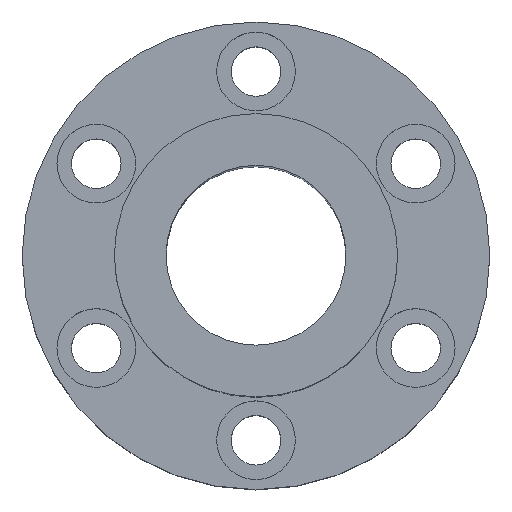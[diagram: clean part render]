
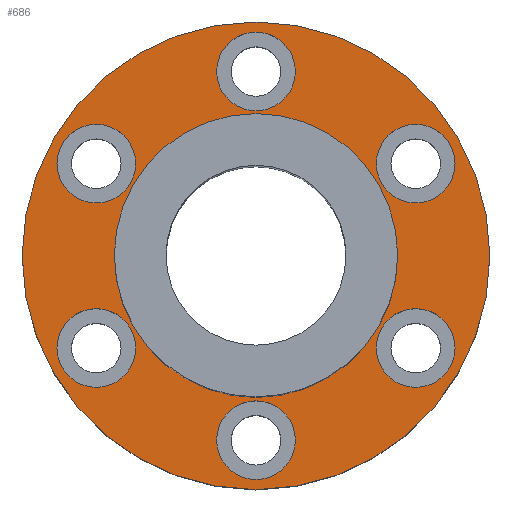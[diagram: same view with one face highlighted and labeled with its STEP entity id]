
A CAD part, top view. The second image highlights one B-rep face of the part: STEP entity #686.
In plain terms, the highlighted planar face has unit normal (0, 0, 1).
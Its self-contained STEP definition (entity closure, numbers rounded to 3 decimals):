
#1=CARTESIAN_POINT('',(0.,0.,22.5));
#2=DIRECTION('',(0.,0.,-1.));
#3=DIRECTION('',(-1.,0.,0.));
#4=AXIS2_PLACEMENT_3D('',#1,#2,#3);
#6=CARTESIAN_POINT('',(0.,0.,22.5));
#7=DIRECTION('',(0.,0.,-1.));
#8=DIRECTION('',(1.,0.,0.));
#9=AXIS2_PLACEMENT_3D('',#6,#7,#8);
#11=CARTESIAN_POINT('',(35.507,-20.5,22.5));
#12=DIRECTION('',(0.,0.,1.));
#13=DIRECTION('',(0.5,0.866,0.));
#14=AXIS2_PLACEMENT_3D('',#11,#12,#13);
#16=CARTESIAN_POINT('',(35.507,-20.5,22.5));
#17=DIRECTION('',(0.,0.,1.));
#18=DIRECTION('',(-0.5,-0.866,0.));
#19=AXIS2_PLACEMENT_3D('',#16,#17,#18);
#21=CARTESIAN_POINT('',(-35.507,-20.5,22.5));
#22=DIRECTION('',(0.,0.,1.));
#23=DIRECTION('',(0.5,-0.866,0.));
#24=AXIS2_PLACEMENT_3D('',#21,#22,#23);
#26=CARTESIAN_POINT('',(-35.507,-20.5,22.5));
#27=DIRECTION('',(0.,0.,1.));
#28=DIRECTION('',(-0.5,0.866,0.));
#29=AXIS2_PLACEMENT_3D('',#26,#27,#28);
#31=CARTESIAN_POINT('',(0.,41.,22.5));
#32=DIRECTION('',(0.,0.,1.));
#33=DIRECTION('',(-1.,0.,0.));
#34=AXIS2_PLACEMENT_3D('',#31,#32,#33);
#36=CARTESIAN_POINT('',(0.,41.,22.5));
#37=DIRECTION('',(0.,0.,1.));
#38=DIRECTION('',(1.,0.,0.));
#39=AXIS2_PLACEMENT_3D('',#36,#37,#38);
#41=CARTESIAN_POINT('',(0.,0.,22.5));
#42=DIRECTION('',(0.,0.,1.));
#43=DIRECTION('',(-1.,0.,0.));
#44=AXIS2_PLACEMENT_3D('',#41,#42,#43);
#46=CARTESIAN_POINT('',(0.,0.,22.5));
#47=DIRECTION('',(0.,0.,1.));
#48=DIRECTION('',(1.,0.,0.));
#49=AXIS2_PLACEMENT_3D('',#46,#47,#48);
#51=CARTESIAN_POINT('',(-35.507,20.5,22.5));
#52=DIRECTION('',(0.,0.,1.));
#53=DIRECTION('',(-0.5,-0.866,0.));
#54=AXIS2_PLACEMENT_3D('',#51,#52,#53);
#56=CARTESIAN_POINT('',(-35.507,20.5,22.5));
#57=DIRECTION('',(0.,0.,1.));
#58=DIRECTION('',(0.5,0.866,0.));
#59=AXIS2_PLACEMENT_3D('',#56,#57,#58);
#61=CARTESIAN_POINT('',(0.,-41.,22.5));
#62=DIRECTION('',(0.,0.,1.));
#63=DIRECTION('',(1.,0.,0.));
#64=AXIS2_PLACEMENT_3D('',#61,#62,#63);
#66=CARTESIAN_POINT('',(0.,-41.,22.5));
#67=DIRECTION('',(0.,0.,1.));
#68=DIRECTION('',(-1.,0.,0.));
#69=AXIS2_PLACEMENT_3D('',#66,#67,#68);
#71=CARTESIAN_POINT('',(35.507,20.5,22.5));
#72=DIRECTION('',(0.,0.,1.));
#73=DIRECTION('',(-0.5,0.866,0.));
#74=AXIS2_PLACEMENT_3D('',#71,#72,#73);
#76=CARTESIAN_POINT('',(35.507,20.5,22.5));
#77=DIRECTION('',(0.,0.,1.));
#78=DIRECTION('',(0.5,-0.866,0.));
#79=AXIS2_PLACEMENT_3D('',#76,#77,#78);
#489=CARTESIAN_POINT('',(-52.,0.,22.5));
#490=CARTESIAN_POINT('',(52.,0.,22.5));
#491=VERTEX_POINT('',#489);
#492=VERTEX_POINT('',#490);
#493=CARTESIAN_POINT('',(39.882,-12.922,22.5));
#494=CARTESIAN_POINT('',(31.132,-28.078,22.5));
#495=VERTEX_POINT('',#493);
#496=VERTEX_POINT('',#494);
#497=CARTESIAN_POINT('',(-31.132,-28.078,22.5));
#498=CARTESIAN_POINT('',(-39.882,-12.922,22.5));
#499=VERTEX_POINT('',#497);
#500=VERTEX_POINT('',#498);
#501=CARTESIAN_POINT('',(-8.75,41.,22.5));
#502=CARTESIAN_POINT('',(8.75,41.,22.5));
#503=VERTEX_POINT('',#501);
#504=VERTEX_POINT('',#502);
#505=CARTESIAN_POINT('',(-39.882,12.922,22.5));
#506=CARTESIAN_POINT('',(-31.132,28.078,22.5));
#507=VERTEX_POINT('',#505);
#508=VERTEX_POINT('',#506);
#509=CARTESIAN_POINT('',(8.75,-41.,22.5));
#510=CARTESIAN_POINT('',(-8.75,-41.,22.5));
#511=VERTEX_POINT('',#509);
#512=VERTEX_POINT('',#510);
#513=CARTESIAN_POINT('',(31.132,28.078,22.5));
#514=CARTESIAN_POINT('',(39.882,12.922,22.5));
#515=VERTEX_POINT('',#513);
#516=VERTEX_POINT('',#514);
#617=CARTESIAN_POINT('',(-31.5,0.,22.5));
#618=CARTESIAN_POINT('',(31.5,0.,22.5));
#619=VERTEX_POINT('',#617);
#620=VERTEX_POINT('',#618);
#633=CARTESIAN_POINT('',(0.,0.,22.5));
#634=DIRECTION('',(0.,0.,1.));
#635=DIRECTION('',(1.,0.,0.));
#636=AXIS2_PLACEMENT_3D('',#633,#634,#635);
#637=PLANE('',#636);
#639=ORIENTED_EDGE('',*,*,#638,.T.);
#641=ORIENTED_EDGE('',*,*,#640,.T.);
#642=EDGE_LOOP('',(#639,#641));
#643=FACE_OUTER_BOUND('',#642,.F.);
#645=ORIENTED_EDGE('',*,*,#644,.T.);
#647=ORIENTED_EDGE('',*,*,#646,.T.);
#648=EDGE_LOOP('',(#645,#647));
#649=FACE_BOUND('',#648,.F.);
#651=ORIENTED_EDGE('',*,*,#650,.T.);
#653=ORIENTED_EDGE('',*,*,#652,.T.);
#654=EDGE_LOOP('',(#651,#653));
#655=FACE_BOUND('',#654,.F.);
#657=ORIENTED_EDGE('',*,*,#656,.T.);
#659=ORIENTED_EDGE('',*,*,#658,.T.);
#660=EDGE_LOOP('',(#657,#659));
#661=FACE_BOUND('',#660,.F.);
#663=ORIENTED_EDGE('',*,*,#662,.T.);
#665=ORIENTED_EDGE('',*,*,#664,.T.);
#666=EDGE_LOOP('',(#663,#665));
#667=FACE_BOUND('',#666,.F.);
#669=ORIENTED_EDGE('',*,*,#668,.T.);
#671=ORIENTED_EDGE('',*,*,#670,.T.);
#672=EDGE_LOOP('',(#669,#671));
#673=FACE_BOUND('',#672,.F.);
#675=ORIENTED_EDGE('',*,*,#674,.T.);
#677=ORIENTED_EDGE('',*,*,#676,.T.);
#678=EDGE_LOOP('',(#675,#677));
#679=FACE_BOUND('',#678,.F.);
#681=ORIENTED_EDGE('',*,*,#680,.T.);
#683=ORIENTED_EDGE('',*,*,#682,.T.);
#684=EDGE_LOOP('',(#681,#683));
#685=FACE_BOUND('',#684,.F.);
#686=ADVANCED_FACE('',(#643,#649,#655,#661,#667,#673,#679,#685),#637,.T.);
#5=CIRCLE('',#4,52.);
#10=CIRCLE('',#9,52.);
#15=CIRCLE('',#14,8.75);
#20=CIRCLE('',#19,8.75);
#25=CIRCLE('',#24,8.75);
#30=CIRCLE('',#29,8.75);
#35=CIRCLE('',#34,8.75);
#40=CIRCLE('',#39,8.75);
#45=CIRCLE('',#44,31.5);
#50=CIRCLE('',#49,31.5);
#55=CIRCLE('',#54,8.75);
#60=CIRCLE('',#59,8.75);
#65=CIRCLE('',#64,8.75);
#70=CIRCLE('',#69,8.75);
#75=CIRCLE('',#74,8.75);
#80=CIRCLE('',#79,8.75);
#638=EDGE_CURVE('',#491,#492,#5,.T.);
#640=EDGE_CURVE('',#492,#491,#10,.T.);
#644=EDGE_CURVE('',#495,#496,#15,.T.);
#646=EDGE_CURVE('',#496,#495,#20,.T.);
#650=EDGE_CURVE('',#499,#500,#25,.T.);
#652=EDGE_CURVE('',#500,#499,#30,.T.);
#656=EDGE_CURVE('',#503,#504,#35,.T.);
#658=EDGE_CURVE('',#504,#503,#40,.T.);
#662=EDGE_CURVE('',#619,#620,#45,.T.);
#664=EDGE_CURVE('',#620,#619,#50,.T.);
#668=EDGE_CURVE('',#507,#508,#55,.T.);
#670=EDGE_CURVE('',#508,#507,#60,.T.);
#674=EDGE_CURVE('',#511,#512,#65,.T.);
#676=EDGE_CURVE('',#512,#511,#70,.T.);
#680=EDGE_CURVE('',#515,#516,#75,.T.);
#682=EDGE_CURVE('',#516,#515,#80,.T.);
